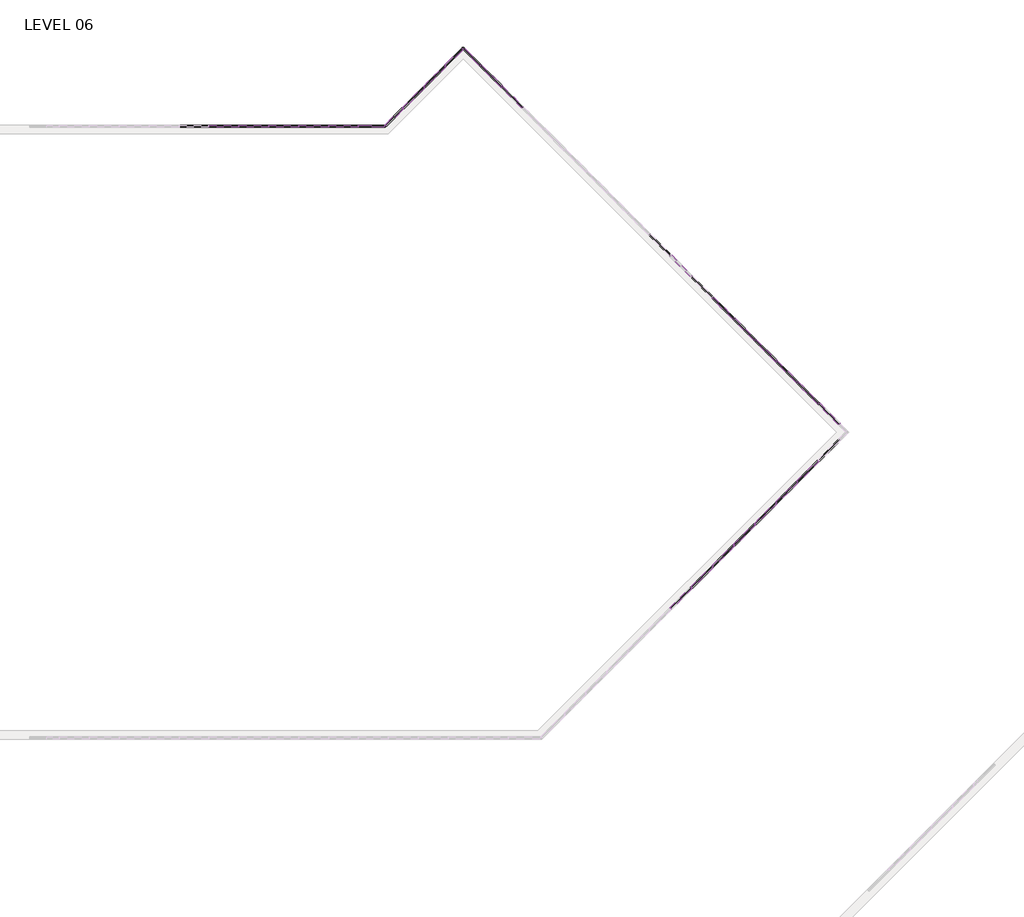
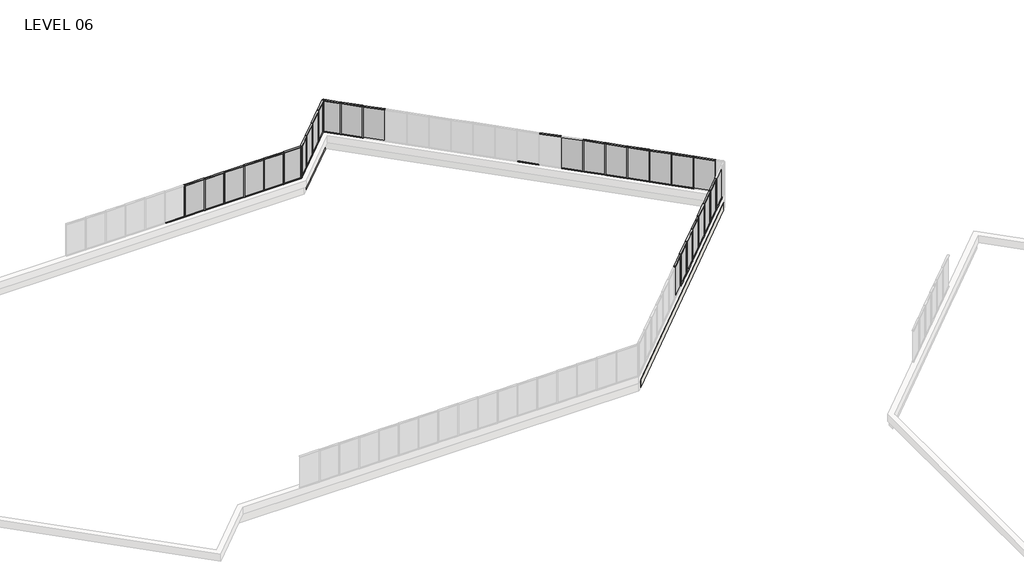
# One storey, part 15 of 17: 82 members, 28 plates, 2 walls.
"""IFC4 building model written with IfcOpenShell, lengths in millimetres."""

from ifc_helpers import new_model, si_unit, origin, place, context, project, spatial, faceted_brep, transform, mapped, element, save
from components import member_5247f267, member_e44af9ab, member_800970d4, member_45eb7f2e, member_ed9c17d6, member_53409b32, member_43bac76b, member_0b71a88d, plate_67294edd, plate_048e4634, plate_aaac5d3d, plate_9c66726c, plate_e0fd5134, plate_62af1d3c, plate_903242d9, plate_0d1907f3, plate_15429445

model = new_model("IFC4")

# Units and contexts
model_context = context("Model", 3, world=origin())
ifc_project = project(units=[si_unit("LENGTHUNIT", "METRE", prefix="MILLI")], contexts=[model_context])

# Site, building, storey
site = spatial("IfcSite", under=ifc_project)
building = spatial("IfcBuilding", under=site)
storey = spatial("IfcBuildingStorey", under=building, Name="LEVEL 06", Elevation=19596.1)

# Members
placement = place(None, origin())
member_shape = member_5247f267(model_context)
element("IfcMember", 1, ObjectType="Rectangular Mullion : 2\" x 4.5\" rectangular", at=placement, inside=storey, context=model_context, shape_type="MappedRepresentation", body=[
    mapped(member_shape, transform((39706.55, 120127.9523049, 19596.1), x_axis=(0.0, 0.0, -1.0), y_axis=(0.0, 1.0, 0.0), z_axis=(1.0, 0.0, 0.0))),
])
element("IfcMember", 2, ObjectType="Rectangular Mullion : 2\" x 4.5\" rectangular", at=placement, inside=storey, context=model_context, shape_type="MappedRepresentation", body=[
    mapped(member_shape, transform((38182.55, 120127.9523049, 19596.1), x_axis=(0.0, 0.0, -1.0), y_axis=(0.0, 1.0, 0.0), z_axis=(1.0, 0.0, 0.0))),
])
element("IfcMember", 3, ObjectType="Rectangular Mullion : 2\" x 4.5\" rectangular", at=placement, inside=storey, context=model_context, shape_type="MappedRepresentation", body=[
    mapped(member_shape, transform((36658.55, 120127.9523049, 19596.1), x_axis=(0.0, 0.0, -1.0), y_axis=(0.0, 1.0, 0.0), z_axis=(1.0, 0.0, 0.0))),
])
element("IfcMember", 4, ObjectType="Rectangular Mullion : 2\" x 4.5\" rectangular", at=placement, inside=storey, context=model_context, shape_type="MappedRepresentation", body=[
    mapped(member_shape, transform((35134.55, 120127.9523049, 19596.1), x_axis=(0.0, 0.0, -1.0), y_axis=(0.0, 1.0, 0.0), z_axis=(1.0, 0.0, 0.0))),
])
element("IfcMember", 5, ObjectType="Rectangular Mullion : 2\" x 4.5\" rectangular", at=placement, inside=storey, context=model_context, shape_type="MappedRepresentation", body=[
    mapped(member_shape, transform((32086.55, 120127.9523049, 19596.1), x_axis=(0.0, 0.0, -1.0), y_axis=(0.0, 1.0, 0.0), z_axis=(1.0, 0.0, 0.0))),
])
element("IfcMember", 6, ObjectType="Rectangular Mullion : 2\" x 4.5\" rectangular", at=placement, inside=storey, context=model_context, shape_type="MappedRepresentation", body=[
    mapped(member_shape, transform((33610.55, 120127.9523049, 19596.1), x_axis=(0.0, 0.0, -1.0), y_axis=(0.0, 1.0, 0.0), z_axis=(1.0, 0.0, 0.0))),
])
element("IfcMember", 7, ObjectType="Rectangular Mullion : 2\" x 4.5\" rectangular", at=placement, inside=storey, context=model_context, shape_type="MappedRepresentation", body=[
    mapped(member_shape, transform((56719.8907816, 96634.0369509, 19596.1), x_axis=(0.0, 0.0, -1.0), y_axis=(0.7071067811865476, -0.7071067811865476, 0.0), z_axis=(-0.7071067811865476, -0.7071067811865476, 0.0))),
])
element("IfcMember", 8, ObjectType="Rectangular Mullion : 2\" x 4.5\" rectangular", at=placement, inside=storey, context=model_context, shape_type="MappedRepresentation", body=[
    mapped(member_shape, transform((57797.5067145, 97711.6528837, 19596.1), x_axis=(0.0, 0.0, -1.0), y_axis=(0.7071067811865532, -0.7071067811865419, 0.0), z_axis=(-0.7071067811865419, -0.7071067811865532, 0.0))),
])
element("IfcMember", 9, ObjectType="Rectangular Mullion : 2\" x 4.5\" rectangular", at=placement, inside=storey, context=model_context, shape_type="MappedRepresentation", body=[
    mapped(member_shape, transform((58875.1226473, 98789.2688165, 19596.1), x_axis=(0.0, 0.0, -1.0), y_axis=(0.7071067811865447, -0.7071067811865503, 0.0), z_axis=(-0.7071067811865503, -0.7071067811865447, 0.0))),
])
element("IfcMember", 10, ObjectType="Rectangular Mullion : 2\" x 4.5\" rectangular", at=placement, inside=storey, context=model_context, shape_type="MappedRepresentation", body=[
    mapped(member_shape, transform((61030.3693146, 100944.5154839, 19596.1), x_axis=(0.0, 0.0, -1.0), y_axis=(0.7071067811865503, -0.7071067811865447, 0.0), z_axis=(-0.7071067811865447, -0.7071067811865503, 0.0))),
])
element("IfcMember", 11, ObjectType="Rectangular Mullion : 2\" x 4.5\" rectangular", at=placement, inside=storey, context=model_context, shape_type="MappedRepresentation", body=[
    mapped(member_shape, transform((59952.7459809, 99866.8921502, 19596.1), x_axis=(0.0, 0.0, -1.0), y_axis=(0.7071067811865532, -0.7071067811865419, 0.0), z_axis=(-0.7071067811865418, -0.7071067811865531, 0.0))),
])
element("IfcMember", 12, ObjectType="Rectangular Mullion : 2\" x 4.5\" rectangular", at=placement, inside=storey, context=model_context, shape_type="MappedRepresentation", body=[
    mapped(member_shape, transform((62108.0000491, 102022.1462184, 19596.1), x_axis=(0.0, 0.0, -1.0), y_axis=(0.7071067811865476, -0.7071067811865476, 0.0), z_axis=(-0.7071067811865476, -0.7071067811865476, 0.0))),
])
element("IfcMember", 13, ObjectType="Rectangular Mullion : 2\" x 4.5\" rectangular", at=placement, inside=storey, context=model_context, shape_type="MappedRepresentation", body=[
    mapped(member_shape, transform((63185.6307836, 103099.7769529, 19596.1), x_axis=(0.0, 0.0, -1.0), y_axis=(0.7071067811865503, -0.7071067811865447, 0.0), z_axis=(-0.7071067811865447, -0.7071067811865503, 0.0))),
])
element("IfcMember", 14, ObjectType="Rectangular Mullion : 2\" x 4.5\" rectangular", at=placement, inside=storey, context=model_context, shape_type="MappedRepresentation", body=[
    mapped(member_shape, transform((62072.0790246, 107097.5294159, 19596.1), x_axis=(0.0, 0.0, -1.0), y_axis=(0.7071067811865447, 0.7071067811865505, 0.0), z_axis=(0.7071067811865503, -0.7071067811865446, 0.0))),
])
element("IfcMember", 15, ObjectType="Rectangular Mullion : 2\" x 4.5\" rectangular", at=placement, inside=storey, context=model_context, shape_type="MappedRepresentation", body=[
    mapped(member_shape, transform((60994.4482901, 108175.1601505, 19596.1), x_axis=(0.0, 0.0, -1.0), y_axis=(0.7071067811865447, 0.7071067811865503, 0.0), z_axis=(0.7071067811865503, -0.7071067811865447, 0.0))),
])
element("IfcMember", 16, ObjectType="Rectangular Mullion : 2\" x 4.5\" rectangular", at=placement, inside=storey, context=model_context, shape_type="MappedRepresentation", body=[
    mapped(member_shape, transform((58839.2225556, 110330.385885, 19596.1), x_axis=(0.0, 0.0, -1.0), y_axis=(0.7071067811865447, 0.7071067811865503, 0.0), z_axis=(0.7071067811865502, -0.7071067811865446, 0.0))),
])
element("IfcMember", 17, ObjectType="Rectangular Mullion : 2\" x 4.5\" rectangular", at=placement, inside=storey, context=model_context, shape_type="MappedRepresentation", body=[
    mapped(member_shape, transform((57761.6275556, 111407.980885, 19596.1), x_axis=(0.0, 0.0, -1.0), y_axis=(0.7071067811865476, 0.7071067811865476, 0.0), z_axis=(0.7071067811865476, -0.7071067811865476, 0.0))),
])
element("IfcMember", 18, ObjectType="Rectangular Mullion : 2\" x 4.5\" rectangular", at=placement, inside=storey, context=model_context, shape_type="MappedRepresentation", body=[
    mapped(member_shape, transform((63149.7097592, 106019.8986814, 19596.1), x_axis=(0.0, 0.0, -1.0), y_axis=(0.7071067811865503, 0.7071067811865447, 0.0), z_axis=(0.7071067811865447, -0.7071067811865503, 0.0))),
])
element("IfcMember", 19, ObjectType="Rectangular Mullion : 2\" x 4.5\" rectangular", at=placement, inside=storey, context=model_context, shape_type="MappedRepresentation", body=[
    mapped(member_shape, transform((59916.8354228, 109252.7730177, 19596.1), x_axis=(0.0, 0.0, -1.0), y_axis=(0.7071067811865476, 0.7071067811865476, 0.0), z_axis=(0.7071067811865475, -0.7071067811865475, 0.0))),
])
element("IfcMember", 20, ObjectType="Rectangular Mullion : 2\" x 4.5\" rectangular", at=placement, inside=storey, context=model_context, shape_type="MappedRepresentation", body=[
    mapped(member_shape, transform((47009.3767128, 122160.2317277, 19596.1), x_axis=(0.0, 0.0, -1.0), y_axis=(0.7071067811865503, 0.7071067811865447, 0.0), z_axis=(0.7071067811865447, -0.7071067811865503, 0.0))),
])
element("IfcMember", 21, ObjectType="Rectangular Mullion : 2\" x 4.5\" rectangular", at=placement, inside=storey, context=model_context, shape_type="MappedRepresentation", body=[
    mapped(member_shape, transform((43059.572889, 122097.2813296, 19596.1), x_axis=(0.0, 0.0, -1.0), y_axis=(-0.7071067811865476, 0.7071067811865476, 0.0), z_axis=(0.7071067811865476, 0.7071067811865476, 0.0))),
])
element("IfcMember", 22, ObjectType="Rectangular Mullion : 2\" x 4.5\" rectangular", at=placement, inside=storey, context=model_context, shape_type="MappedRepresentation", body=[
    mapped(member_shape, transform((44137.2036235, 123174.9120641, 19596.1), x_axis=(0.0, 0.0, -1.0), y_axis=(-0.7071067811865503, 0.7071067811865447, 0.0), z_axis=(0.7071067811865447, 0.7071067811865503, 0.0))),
])
element("IfcMember", 23, ObjectType="Rectangular Mullion : 2\" x 4.5\" rectangular", at=placement, inside=storey, context=model_context, shape_type="MappedRepresentation", body=[
    mapped(member_shape, transform((38233.35, 120127.9523049, 22186.9), x_axis=(0.0, 0.0, 1.0), y_axis=(0.0, 1.0, 0.0), z_axis=(-1.0, 0.0, 0.0))),
])
element("IfcMember", 24, ObjectType="Rectangular Mullion : 2\" x 4.5\" rectangular", at=placement, inside=storey, context=model_context, shape_type="MappedRepresentation", body=[
    mapped(member_shape, transform((36709.35, 120127.9523049, 22186.9), x_axis=(0.0, 0.0, 1.0), y_axis=(0.0, 1.0, 0.0), z_axis=(-1.0, 0.0, 0.0))),
])
element("IfcMember", 25, ObjectType="Rectangular Mullion : 2\" x 4.5\" rectangular", at=placement, inside=storey, context=model_context, shape_type="MappedRepresentation", body=[
    mapped(member_shape, transform((35185.35, 120127.9523049, 22186.9), x_axis=(0.0, 0.0, 1.0), y_axis=(0.0, 1.0, 0.0), z_axis=(-1.0, 0.0, 0.0))),
])
element("IfcMember", 26, ObjectType="Rectangular Mullion : 2\" x 4.5\" rectangular", at=placement, inside=storey, context=model_context, shape_type="MappedRepresentation", body=[
    mapped(member_shape, transform((32137.35, 120127.9523049, 22186.9), x_axis=(0.0, 0.0, 1.0), y_axis=(0.0, 1.0, 0.0), z_axis=(-1.0, 0.0, 0.0))),
])
element("IfcMember", 27, ObjectType="Rectangular Mullion : 2\" x 4.5\" rectangular", at=placement, inside=storey, context=model_context, shape_type="MappedRepresentation", body=[
    mapped(member_shape, transform((33661.35, 120127.9523049, 22186.9), x_axis=(0.0, 0.0, 1.0), y_axis=(0.0, 1.0, 0.0), z_axis=(-1.0, 0.0, 0.0))),
])
element("IfcMember", 28, ObjectType="Rectangular Mullion : 2\" x 4.5\" rectangular", at=placement, inside=storey, context=model_context, shape_type="MappedRepresentation", body=[
    mapped(member_shape, transform((56683.9697572, 96598.1159265, 22186.9), x_axis=(0.0, 0.0, 1.0), y_axis=(0.7071067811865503, -0.7071067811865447, 0.0), z_axis=(0.7071067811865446, 0.7071067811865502, 0.0))),
])
element("IfcMember", 29, ObjectType="Rectangular Mullion : 2\" x 4.5\" rectangular", at=placement, inside=storey, context=model_context, shape_type="MappedRepresentation", body=[
    mapped(member_shape, transform((57761.58569, 97675.7318593, 22186.9), x_axis=(0.0, 0.0, 1.0), y_axis=(0.7071067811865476, -0.7071067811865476, 0.0), z_axis=(0.7071067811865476, 0.7071067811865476, 0.0))),
])
element("IfcMember", 30, ObjectType="Rectangular Mullion : 2\" x 4.5\" rectangular", at=placement, inside=storey, context=model_context, shape_type="MappedRepresentation", body=[
    mapped(member_shape, transform((58839.2016228, 98753.3477921, 22186.9), x_axis=(0.0, 0.0, 1.0), y_axis=(0.7071067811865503, -0.7071067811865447, 0.0), z_axis=(0.7071067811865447, 0.7071067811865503, 0.0))),
])
element("IfcMember", 31, ObjectType="Rectangular Mullion : 2\" x 4.5\" rectangular", at=placement, inside=storey, context=model_context, shape_type="MappedRepresentation", body=[
    mapped(member_shape, transform((60994.4482901, 100908.5944594, 22186.9), x_axis=(0.0, 0.0, 1.0), y_axis=(0.7071067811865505, -0.7071067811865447, 0.0), z_axis=(0.7071067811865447, 0.7071067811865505, 0.0))),
])
element("IfcMember", 32, ObjectType="Rectangular Mullion : 2\" x 4.5\" rectangular", at=placement, inside=storey, context=model_context, shape_type="MappedRepresentation", body=[
    mapped(member_shape, transform((59916.8249564, 99830.9711257, 22186.9), x_axis=(0.0, 0.0, 1.0), y_axis=(0.7071067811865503, -0.7071067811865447, 0.0), z_axis=(0.7071067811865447, 0.7071067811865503, 0.0))),
])
element("IfcMember", 33, ObjectType="Rectangular Mullion : 2\" x 4.5\" rectangular", at=placement, inside=storey, context=model_context, shape_type="MappedRepresentation", body=[
    mapped(member_shape, transform((62072.0790246, 101986.2251939, 22186.9), x_axis=(0.0, 0.0, 1.0), y_axis=(0.7071067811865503, -0.7071067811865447, 0.0), z_axis=(0.7071067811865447, 0.7071067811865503, 0.0))),
])
element("IfcMember", 34, ObjectType="Rectangular Mullion : 2\" x 4.5\" rectangular", at=placement, inside=storey, context=model_context, shape_type="MappedRepresentation", body=[
    mapped(member_shape, transform((63149.7097592, 103063.8559285, 22186.9), x_axis=(0.0, 0.0, 1.0), y_axis=(0.7071067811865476, -0.7071067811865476, 0.0), z_axis=(0.7071067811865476, 0.7071067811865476, 0.0))),
])
element("IfcMember", 35, ObjectType="Rectangular Mullion : 2\" x 4.5\" rectangular", at=placement, inside=storey, context=model_context, shape_type="MappedRepresentation", body=[
    mapped(member_shape, transform((62108.0000491, 107061.6083914, 22186.9), x_axis=(0.0, 0.0, 1.0), y_axis=(0.7071067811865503, 0.7071067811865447, 0.0), z_axis=(-0.7071067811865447, 0.7071067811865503, 0.0))),
])
element("IfcMember", 36, ObjectType="Rectangular Mullion : 2\" x 4.5\" rectangular", at=placement, inside=storey, context=model_context, shape_type="MappedRepresentation", body=[
    mapped(member_shape, transform((61030.3693146, 108139.239126, 22186.9), x_axis=(0.0, 0.0, 1.0), y_axis=(0.7071067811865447, 0.7071067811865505, 0.0), z_axis=(-0.7071067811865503, 0.7071067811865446, 0.0))),
])
element("IfcMember", 37, ObjectType="Rectangular Mullion : 2\" x 4.5\" rectangular", at=placement, inside=storey, context=model_context, shape_type="MappedRepresentation", body=[
    mapped(member_shape, transform((58875.1435801, 110294.4648605, 22186.9), x_axis=(0.0, 0.0, 1.0), y_axis=(0.7071067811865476, 0.7071067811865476, 0.0), z_axis=(-0.7071067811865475, 0.7071067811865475, 0.0))),
])
element("IfcMember", 38, ObjectType="Rectangular Mullion : 2\" x 4.5\" rectangular", at=placement, inside=storey, context=model_context, shape_type="MappedRepresentation", body=[
    mapped(member_shape, transform((57797.5485801, 111372.0598605, 22186.9), x_axis=(0.0, 0.0, 1.0), y_axis=(0.7071067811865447, 0.7071067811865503, 0.0), z_axis=(-0.7071067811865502, 0.7071067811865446, 0.0))),
])
element("IfcMember", 39, ObjectType="Rectangular Mullion : 2\" x 4.5\" rectangular", at=placement, inside=storey, context=model_context, shape_type="MappedRepresentation", body=[
    mapped(member_shape, transform((55642.3585801, 113527.2498605, 22186.9), x_axis=(0.0, 0.0, 1.0), y_axis=(0.7071067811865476, 0.7071067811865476, 0.0), z_axis=(-0.7071067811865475, 0.7071067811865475, 0.0))),
])
element("IfcMember", 40, ObjectType="Rectangular Mullion : 2\" x 4.5\" rectangular", at=placement, inside=storey, context=model_context, shape_type="MappedRepresentation", body=[
    mapped(member_shape, transform((63185.6307836, 105983.9776569, 22186.9), x_axis=(0.0, 0.0, 1.0), y_axis=(0.7071067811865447, 0.7071067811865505, 0.0), z_axis=(-0.7071067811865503, 0.7071067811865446, 0.0))),
])
element("IfcMember", 41, ObjectType="Rectangular Mullion : 2\" x 4.5\" rectangular", at=placement, inside=storey, context=model_context, shape_type="MappedRepresentation", body=[
    mapped(member_shape, transform((59952.7564473, 109216.8519932, 22186.9), x_axis=(0.0, 0.0, 1.0), y_axis=(0.7071067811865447, 0.7071067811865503, 0.0), z_axis=(-0.7071067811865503, 0.7071067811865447, 0.0))),
])
element("IfcMember", 42, ObjectType="Rectangular Mullion : 2\" x 4.5\" rectangular", at=placement, inside=storey, context=model_context, shape_type="MappedRepresentation", body=[
    mapped(member_shape, transform((47045.2977373, 122124.3107033, 22186.9), x_axis=(0.0, 0.0, 1.0), y_axis=(0.7071067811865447, 0.7071067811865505, 0.0), z_axis=(-0.7071067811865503, 0.7071067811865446, 0.0))),
])
element("IfcMember", 43, ObjectType="Rectangular Mullion : 2\" x 4.5\" rectangular", at=placement, inside=storey, context=model_context, shape_type="MappedRepresentation", body=[
    mapped(member_shape, transform((45967.6670028, 123201.9414378, 22186.9), x_axis=(0.0, 0.0, 1.0), y_axis=(0.7071067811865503, 0.7071067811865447, 0.0), z_axis=(-0.7071067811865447, 0.7071067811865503, 0.0))),
])
element("IfcMember", 44, ObjectType="Rectangular Mullion : 2\" x 4.5\" rectangular", at=placement, inside=storey, context=model_context, shape_type="MappedRepresentation", body=[
    mapped(member_shape, transform((43095.4939135, 122133.202354, 22186.9), x_axis=(0.0, 0.0, 1.0), y_axis=(-0.7071067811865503, 0.7071067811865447, 0.0), z_axis=(-0.7071067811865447, -0.7071067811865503, 0.0))),
])
element("IfcMember", 45, ObjectType="Rectangular Mullion : 2\" x 4.5\" rectangular", at=placement, inside=storey, context=model_context, shape_type="MappedRepresentation", body=[
    mapped(member_shape, transform((42017.863179, 121055.5716195, 22186.9), x_axis=(0.0, 0.0, 1.0), y_axis=(-0.7071067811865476, 0.7071067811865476, 0.0), z_axis=(-0.7071067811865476, -0.7071067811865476, 0.0))),
])
member_2_shape = member_e44af9ab(model_context)
element("IfcMember", 46, ObjectType="Rectangular Mullion : 2\" x 4.5\" rectangular", at=placement, inside=storey, context=model_context, shape_type="MappedRepresentation", body=[
    mapped(member_2_shape, transform((39731.95, 120127.9523049, 19596.1), x_axis=(-1.0, 0.0, 0.0), y_axis=(0.0, 1.0, 0.0), z_axis=(0.0, 0.0, -1.0))),
])
element("IfcMember", 47, ObjectType="Rectangular Mullion : 2\" x 4.5\" rectangular", at=placement, inside=storey, context=model_context, shape_type="MappedRepresentation", body=[
    mapped(member_2_shape, transform((38207.95, 120127.9523049, 19596.1), x_axis=(-1.0, 0.0, 0.0), y_axis=(0.0, 1.0, 0.0), z_axis=(0.0, 0.0, -1.0))),
])
element("IfcMember", 48, ObjectType="Rectangular Mullion : 2\" x 4.5\" rectangular", at=placement, inside=storey, context=model_context, shape_type="MappedRepresentation", body=[
    mapped(member_2_shape, transform((36683.95, 120127.9523049, 19596.1), x_axis=(-1.0, 0.0, 0.0), y_axis=(0.0, 1.0, 0.0), z_axis=(0.0, 0.0, -1.0))),
])
element("IfcMember", 49, ObjectType="Rectangular Mullion : 2\" x 4.5\" rectangular", at=placement, inside=storey, context=model_context, shape_type="MappedRepresentation", body=[
    mapped(member_2_shape, transform((35159.95, 120127.9523049, 19596.1), x_axis=(-1.0, 0.0, 0.0), y_axis=(0.0, 1.0, 0.0), z_axis=(0.0, 0.0, -1.0))),
])
element("IfcMember", 50, ObjectType="Rectangular Mullion : 2\" x 4.5\" rectangular", at=placement, inside=storey, context=model_context, shape_type="MappedRepresentation", body=[
    mapped(member_2_shape, transform((32111.95, 120127.9523049, 19596.1), x_axis=(-1.0, 0.0, 0.0), y_axis=(0.0, 1.0, 0.0), z_axis=(0.0, 0.0, -1.0))),
])
element("IfcMember", 51, ObjectType="Rectangular Mullion : 2\" x 4.5\" rectangular", at=placement, inside=storey, context=model_context, shape_type="MappedRepresentation", body=[
    mapped(member_2_shape, transform((33635.95, 120127.9523049, 19596.1), x_axis=(-1.0, 0.0, 0.0), y_axis=(0.0, 1.0, 0.0), z_axis=(0.0, 0.0, -1.0))),
])
element("IfcMember", 52, ObjectType="Rectangular Mullion : 2\" x 4.5\" rectangular", at=placement, inside=storey, context=model_context, shape_type="MappedRepresentation", body=[
    mapped(member_2_shape, transform((56701.9302694, 96616.0764387, 19596.1), x_axis=(0.7071067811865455, 0.7071067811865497, 0.0), y_axis=(0.7071067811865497, -0.7071067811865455, 0.0), z_axis=(0.0, 0.0, -1.0))),
])
element("IfcMember", 53, ObjectType="Rectangular Mullion : 2\" x 4.5\" rectangular", at=placement, inside=storey, context=model_context, shape_type="MappedRepresentation", body=[
    mapped(member_2_shape, transform((57779.5462022, 97693.6923715, 19596.1), x_axis=(0.7071067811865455, 0.7071067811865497, 0.0), y_axis=(0.7071067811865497, -0.7071067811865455, 0.0), z_axis=(0.0, 0.0, -1.0))),
])
element("IfcMember", 54, ObjectType="Rectangular Mullion : 2\" x 4.5\" rectangular", at=placement, inside=storey, context=model_context, shape_type="MappedRepresentation", body=[
    mapped(member_2_shape, transform((58857.162135, 98771.3083043, 19596.1), x_axis=(0.7071067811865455, 0.7071067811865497, 0.0), y_axis=(0.7071067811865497, -0.7071067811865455, 0.0), z_axis=(0.0, 0.0, -1.0))),
])
element("IfcMember", 55, ObjectType="Rectangular Mullion : 2\" x 4.5\" rectangular", at=placement, inside=storey, context=model_context, shape_type="MappedRepresentation", body=[
    mapped(member_2_shape, transform((61012.4088023, 100926.5549716, 19596.1), x_axis=(0.7071067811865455, 0.7071067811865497, 0.0), y_axis=(0.7071067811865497, -0.7071067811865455, 0.0), z_axis=(0.0, 0.0, -1.0))),
])
element("IfcMember", 56, ObjectType="Rectangular Mullion : 2\" x 4.5\" rectangular", at=placement, inside=storey, context=model_context, shape_type="MappedRepresentation", body=[
    mapped(member_2_shape, transform((59934.7854687, 99848.931638, 19596.1), x_axis=(0.7071067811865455, 0.7071067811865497, 0.0), y_axis=(0.7071067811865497, -0.7071067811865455, 0.0), z_axis=(0.0, 0.0, -1.0))),
])
element("IfcMember", 57, ObjectType="Rectangular Mullion : 2\" x 4.5\" rectangular", at=placement, inside=storey, context=model_context, shape_type="MappedRepresentation", body=[
    mapped(member_2_shape, transform((62090.0395369, 102004.1857062, 19596.1), x_axis=(0.7071067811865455, 0.7071067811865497, 0.0), y_axis=(0.7071067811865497, -0.7071067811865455, 0.0), z_axis=(0.0, 0.0, -1.0))),
])
element("IfcMember", 58, ObjectType="Rectangular Mullion : 2\" x 4.5\" rectangular", at=placement, inside=storey, context=model_context, shape_type="MappedRepresentation", body=[
    mapped(member_2_shape, transform((63167.6702714, 103081.8164407, 19596.1), x_axis=(0.7071067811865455, 0.7071067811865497, 0.0), y_axis=(0.7071067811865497, -0.7071067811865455, 0.0), z_axis=(0.0, 0.0, -1.0))),
])
element("IfcMember", 59, ObjectType="Rectangular Mullion : 2\" x 4.5\" rectangular", at=placement, inside=storey, context=model_context, shape_type="MappedRepresentation", body=[
    mapped(member_2_shape, transform((62090.0395369, 107079.5689037, 19596.1), x_axis=(-0.7071067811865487, 0.7071067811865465, 0.0), y_axis=(0.7071067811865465, 0.7071067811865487, 0.0), z_axis=(0.0, 0.0, -1.0))),
])
element("IfcMember", 60, ObjectType="Rectangular Mullion : 2\" x 4.5\" rectangular", at=placement, inside=storey, context=model_context, shape_type="MappedRepresentation", body=[
    mapped(member_2_shape, transform((61012.4088023, 108157.1996382, 19596.1), x_axis=(-0.7071067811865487, 0.7071067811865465, 0.0), y_axis=(0.7071067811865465, 0.7071067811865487, 0.0), z_axis=(0.0, 0.0, -1.0))),
])
element("IfcMember", 61, ObjectType="Rectangular Mullion : 2\" x 4.5\" rectangular", at=placement, inside=storey, context=model_context, shape_type="MappedRepresentation", body=[
    mapped(member_2_shape, transform((58857.1830678, 110312.4253727, 19596.1), x_axis=(-0.7071067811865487, 0.7071067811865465, 0.0), y_axis=(0.7071067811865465, 0.7071067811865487, 0.0), z_axis=(0.0, 0.0, -1.0))),
])
element("IfcMember", 62, ObjectType="Rectangular Mullion : 2\" x 4.5\" rectangular", at=placement, inside=storey, context=model_context, shape_type="MappedRepresentation", body=[
    mapped(member_2_shape, transform((57779.5880678, 111390.0203727, 19596.1), x_axis=(-0.7071067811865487, 0.7071067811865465, 0.0), y_axis=(0.7071067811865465, 0.7071067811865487, 0.0), z_axis=(0.0, 0.0, -1.0))),
])
element("IfcMember", 63, ObjectType="Rectangular Mullion : 2\" x 4.5\" rectangular", at=placement, inside=storey, context=model_context, shape_type="MappedRepresentation", body=[
    mapped(member_2_shape, transform((63167.6702714, 106001.9381692, 19596.1), x_axis=(-0.7071067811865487, 0.7071067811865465, 0.0), y_axis=(0.7071067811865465, 0.7071067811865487, 0.0), z_axis=(0.0, 0.0, -1.0))),
])
element("IfcMember", 64, ObjectType="Rectangular Mullion : 2\" x 4.5\" rectangular", at=placement, inside=storey, context=model_context, shape_type="MappedRepresentation", body=[
    mapped(member_2_shape, transform((59934.7959351, 109234.8125055, 19596.1), x_axis=(-0.7071067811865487, 0.7071067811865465, 0.0), y_axis=(0.7071067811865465, 0.7071067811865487, 0.0), z_axis=(0.0, 0.0, -1.0))),
])
element("IfcMember", 65, ObjectType="Rectangular Mullion : 2\" x 4.5\" rectangular", at=placement, inside=storey, context=model_context, shape_type="MappedRepresentation", body=[
    mapped(member_2_shape, transform((47027.3372251, 122142.2712155, 19596.1), x_axis=(-0.7071067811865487, 0.7071067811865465, 0.0), y_axis=(0.7071067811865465, 0.7071067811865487, 0.0), z_axis=(0.0, 0.0, -1.0))),
])
element("IfcMember", 66, ObjectType="Rectangular Mullion : 2\" x 4.5\" rectangular", at=placement, inside=storey, context=model_context, shape_type="MappedRepresentation", body=[
    mapped(member_2_shape, transform((45949.7064905, 123219.90195, 19596.1), x_axis=(-0.7071067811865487, 0.7071067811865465, 0.0), y_axis=(0.7071067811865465, 0.7071067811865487, 0.0), z_axis=(0.0, 0.0, -1.0))),
])
element("IfcMember", 67, ObjectType="Rectangular Mullion : 2\" x 4.5\" rectangular", at=placement, inside=storey, context=model_context, shape_type="MappedRepresentation", body=[
    mapped(member_2_shape, transform((43077.5334012, 122115.2418418, 19596.1), x_axis=(-0.7071067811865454, -0.7071067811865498, 0.0), y_axis=(-0.7071067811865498, 0.7071067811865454, 0.0), z_axis=(0.0, 0.0, -1.0))),
])
element("IfcMember", 68, ObjectType="Rectangular Mullion : 2\" x 4.5\" rectangular", at=placement, inside=storey, context=model_context, shape_type="MappedRepresentation", body=[
    mapped(member_2_shape, transform((41999.9026667, 121037.6111073, 19596.1), x_axis=(-0.7071067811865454, -0.7071067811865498, 0.0), y_axis=(-0.7071067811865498, 0.7071067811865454, 0.0), z_axis=(0.0, 0.0, -1.0))),
])
element("IfcMember", 69, ObjectType="Rectangular Mullion : 2\" x 4.5\" rectangular", at=placement, inside=storey, context=model_context, shape_type="MappedRepresentation", body=[
    mapped(member_2_shape, transform((44155.1641358, 123192.8725763, 19596.1), x_axis=(-0.7071067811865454, -0.7071067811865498, 0.0), y_axis=(-0.7071067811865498, 0.7071067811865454, 0.0), z_axis=(0.0, 0.0, -1.0))),
])
member_3_shape = member_800970d4(model_context)
element("IfcMember", 70, ObjectType="Rectangular Mullion : 2\" x 4.5\" rectangular", at=placement, inside=storey, context=model_context, shape_type="MappedRepresentation", body=[
    mapped(member_3_shape, transform((45065.95, 124103.6584406, 19596.1), x_axis=(-0.7071067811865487, 0.7071067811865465, 0.0), y_axis=(0.7071067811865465, 0.7071067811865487, 0.0), z_axis=(0.0, 0.0, -1.0))),
])
element("IfcMember", 71, ObjectType="Rectangular Mullion : 2\" x 4.5\" rectangular", at=placement, inside=storey, context=model_context, shape_type="MappedRepresentation", body=[
    mapped(member_3_shape, transform((41090.2438644, 120127.9523049, 19596.1), x_axis=(-0.7071067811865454, -0.7071067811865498, 0.0), y_axis=(-0.7071067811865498, 0.7071067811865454, 0.0), z_axis=(0.0, 0.0, -1.0))),
])
element("IfcMember", 72, ObjectType="Rectangular Mullion : 2\" x 4.5\" rectangular", at=placement, inside=storey, context=model_context, shape_type="MappedRepresentation", body=[
    mapped(member_3_shape, transform((41090.2438644, 120127.9523049, 22186.9), x_axis=(1.0, 0.0, 0.0), y_axis=(0.0, 1.0, 0.0), z_axis=(0.0, 0.0, 1.0))),
])
element("IfcMember", 73, ObjectType="Rectangular Mullion : 2\" x 4.5\" rectangular", at=placement, inside=storey, context=model_context, shape_type="MappedRepresentation", body=[
    mapped(member_3_shape, transform((45065.95, 124103.6584406, 22186.9), x_axis=(0.7071067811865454, 0.7071067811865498, 0.0), y_axis=(-0.7071067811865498, 0.7071067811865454, 0.0), z_axis=(0.0, 0.0, 1.0))),
])
member_4_shape = member_45eb7f2e(model_context)
element("IfcMember", 74, ObjectType="Rectangular Mullion : 2\" x 4.5\" rectangular", at=placement, inside=storey, context=model_context, shape_type="MappedRepresentation", body=[
    mapped(member_4_shape, transform((39757.35, 120127.9523049, 22186.9), x_axis=(0.0, 0.0, 1.0), y_axis=(0.0, 1.0, 0.0), z_axis=(-1.0, 0.0, 0.0))),
])
element("IfcMember", 75, ObjectType="Rectangular Mullion : 2\" x 4.5\" rectangular", at=placement, inside=storey, context=model_context, shape_type="MappedRepresentation", body=[
    mapped(member_4_shape, transform((41039.4438644, 120127.9523049, 19596.1), x_axis=(0.0, 0.0, -1.0), y_axis=(0.0, 1.0, 0.0), z_axis=(1.0, 0.0, 0.0))),
])
member_5_shape = member_ed9c17d6(model_context)
element("IfcMember", 76, ObjectType="Rectangular Mullion : 2\" x 4.5\" rectangular", at=placement, inside=storey, context=model_context, shape_type="MappedRepresentation", body=[
    mapped(member_5_shape, transform((55606.4375556, 113563.170885, 19596.1), x_axis=(0.0, 0.0, -1.0), y_axis=(0.7071067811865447, 0.7071067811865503, 0.0), z_axis=(0.7071067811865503, -0.7071067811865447, 0.0))),
])
member_6_shape = member_53409b32(model_context)
element("IfcMember", 77, ObjectType="Rectangular Mullion : 2\" x 4.5\" rectangular", at=placement, inside=storey, context=model_context, shape_type="MappedRepresentation", body=[
    mapped(member_6_shape, transform((45101.8710245, 124067.7374161, 22186.9), x_axis=(0.0, 0.0, 1.0), y_axis=(0.7071067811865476, 0.7071067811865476, 0.0), z_axis=(-0.7071067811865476, 0.7071067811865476, 0.0))),
])
element("IfcMember", 78, ObjectType="Rectangular Mullion : 2\" x 4.5\" rectangular", at=placement, inside=storey, context=model_context, shape_type="MappedRepresentation", body=[
    mapped(member_6_shape, transform((45931.7459783, 123237.8624623, 19596.1), x_axis=(0.0, 0.0, -1.0), y_axis=(0.7071067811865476, 0.7071067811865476, 0.0), z_axis=(0.7071067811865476, -0.7071067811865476, 0.0))),
])
member_7_shape = member_43bac76b(model_context)
element("IfcMember", 79, ObjectType="Rectangular Mullion : 2\" x 4.5\" rectangular", at=placement, inside=storey, context=model_context, shape_type="MappedRepresentation", body=[
    mapped(member_7_shape, transform((41126.1648889, 120163.8733294, 22186.9), x_axis=(0.0, 0.0, 1.0), y_axis=(-0.7071067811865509, 0.7071067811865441, 0.0), z_axis=(-0.7071067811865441, -0.7071067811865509, 0.0))),
])
element("IfcMember", 80, ObjectType="Rectangular Mullion : 2\" x 4.5\" rectangular", at=placement, inside=storey, context=model_context, shape_type="MappedRepresentation", body=[
    mapped(member_7_shape, transform((41981.9421545, 121019.650595, 19596.1), x_axis=(0.0, 0.0, -1.0), y_axis=(-0.7071067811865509, 0.7071067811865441, 0.0), z_axis=(0.7071067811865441, 0.7071067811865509, 0.0))),
])
member_8_shape = member_0b71a88d(model_context)
element("IfcMember", 81, ObjectType="Rectangular Mullion : 2\" x 4.5\" rectangular", at=placement, inside=storey, context=model_context, shape_type="MappedRepresentation", body=[
    mapped(member_8_shape, transform((45030.0289755, 124067.7374161, 19596.1), x_axis=(0.0, 0.0, -1.0), y_axis=(-0.7071067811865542, 0.7071067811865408, 0.0), z_axis=(0.7071067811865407, 0.7071067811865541, 0.0))),
])
element("IfcMember", 82, ObjectType="Rectangular Mullion : 2\" x 4.5\" rectangular", at=placement, inside=storey, context=model_context, shape_type="MappedRepresentation", body=[
    mapped(member_8_shape, transform((44173.124648, 123210.8330886, 22186.9), x_axis=(0.0, 0.0, 1.0), y_axis=(-0.7071067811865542, 0.7071067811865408, 0.0), z_axis=(-0.7071067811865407, -0.7071067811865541, 0.0))),
])

# Plates
plate_shape = plate_67294edd(model_context)
element("IfcPlate", 83, ObjectType="System Panel : 1/4\" Glass", at=placement, inside=storey, context=model_context, shape_type="MappedRepresentation", body=[
    mapped(plate_shape, transform((38969.95, 120127.9523049, 19646.9), x_axis=(-1.0, 0.0, 0.0), y_axis=(0.0, -1.0, 0.0), z_axis=(0.0, 0.0, 1.0))),
])
element("IfcPlate", 84, ObjectType="System Panel : 1/4\" Glass", at=placement, inside=storey, context=model_context, shape_type="MappedRepresentation", body=[
    mapped(plate_shape, transform((37445.95, 120127.9523049, 19646.9), x_axis=(-1.0, 0.0, 0.0), y_axis=(0.0, -1.0, 0.0), z_axis=(0.0, 0.0, 1.0))),
])
element("IfcPlate", 85, ObjectType="System Panel : 1/4\" Glass", at=placement, inside=storey, context=model_context, shape_type="MappedRepresentation", body=[
    mapped(plate_shape, transform((35921.95, 120127.9523049, 19646.9), x_axis=(-1.0, 0.0, 0.0), y_axis=(0.0, -1.0, 0.0), z_axis=(0.0, 0.0, 1.0))),
])
element("IfcPlate", 86, ObjectType="System Panel : 1/4\" Glass", at=placement, inside=storey, context=model_context, shape_type="MappedRepresentation", body=[
    mapped(plate_shape, transform((34397.95, 120127.9523049, 19646.9), x_axis=(-1.0, 0.0, 0.0), y_axis=(0.0, -1.0, 0.0), z_axis=(0.0, 0.0, 1.0))),
])
element("IfcPlate", 87, ObjectType="System Panel : 1/4\" Glass", at=placement, inside=storey, context=model_context, shape_type="MappedRepresentation", body=[
    mapped(plate_shape, transform((32873.95, 120127.9523049, 19646.9), x_axis=(-1.0, 0.0, 0.0), y_axis=(0.0, -1.0, 0.0), z_axis=(0.0, 0.0, 1.0))),
])
element("IfcPlate", 88, ObjectType="System Panel : 1/4\" Glass", at=placement, inside=storey, context=model_context, shape_type="MappedRepresentation", body=[
    mapped(plate_shape, transform((61551.2241696, 101465.3703389, 19646.9), x_axis=(0.7071067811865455, 0.7071067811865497, 0.0), y_axis=(-0.7071067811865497, 0.7071067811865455, 0.0), z_axis=(0.0, 0.0, 1.0))),
])
element("IfcPlate", 89, ObjectType="System Panel : 1/4\" Glass", at=placement, inside=storey, context=model_context, shape_type="MappedRepresentation", body=[
    mapped(plate_shape, transform((62628.8549041, 102543.0010734, 19646.9), x_axis=(0.7071067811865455, 0.7071067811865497, 0.0), y_axis=(-0.7071067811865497, 0.7071067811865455, 0.0), z_axis=(0.0, 0.0, 1.0))),
])
element("IfcPlate", 90, ObjectType="System Panel : 1/4\" Glass", at=placement, inside=storey, context=model_context, shape_type="MappedRepresentation", body=[
    mapped(plate_shape, transform((63706.4856387, 103620.631808, 19646.9), x_axis=(0.7071067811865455, 0.7071067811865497, 0.0), y_axis=(-0.7071067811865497, 0.7071067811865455, 0.0), z_axis=(0.0, 0.0, 1.0))),
])
element("IfcPlate", 91, ObjectType="System Panel : 1/4\" Glass", at=placement, inside=storey, context=model_context, shape_type="MappedRepresentation", body=[
    mapped(plate_shape, transform((61551.2241696, 107618.3842709, 19646.9), x_axis=(-0.7071067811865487, 0.7071067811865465, 0.0), y_axis=(-0.7071067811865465, -0.7071067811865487, 0.0), z_axis=(0.0, 0.0, 1.0))),
])
element("IfcPlate", 92, ObjectType="System Panel : 1/4\" Glass", at=placement, inside=storey, context=model_context, shape_type="MappedRepresentation", body=[
    mapped(plate_shape, transform((62628.8549041, 106540.7535364, 19646.9), x_axis=(-0.7071067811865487, 0.7071067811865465, 0.0), y_axis=(-0.7071067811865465, -0.7071067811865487, 0.0), z_axis=(0.0, 0.0, 1.0))),
])
element("IfcPlate", 93, ObjectType="System Panel : 1/4\" Glass", at=placement, inside=storey, context=model_context, shape_type="MappedRepresentation", body=[
    mapped(plate_shape, transform((63706.4856387, 105463.1228019, 19646.9), x_axis=(-0.7071067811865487, 0.7071067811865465, 0.0), y_axis=(-0.7071067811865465, -0.7071067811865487, 0.0), z_axis=(0.0, 0.0, 1.0))),
])
element("IfcPlate", 94, ObjectType="System Panel : 1/4\" Glass", at=placement, inside=storey, context=model_context, shape_type="MappedRepresentation", body=[
    mapped(plate_shape, transform((47566.1525923, 121603.4558482, 19646.9), x_axis=(-0.7071067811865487, 0.7071067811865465, 0.0), y_axis=(-0.7071067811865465, -0.7071067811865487, 0.0), z_axis=(0.0, 0.0, 1.0))),
])
element("IfcPlate", 95, ObjectType="System Panel : 1/4\" Glass", at=placement, inside=storey, context=model_context, shape_type="MappedRepresentation", body=[
    mapped(plate_shape, transform((46488.5218578, 122681.0865828, 19646.9), x_axis=(-0.7071067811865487, 0.7071067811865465, 0.0), y_axis=(-0.7071067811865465, -0.7071067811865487, 0.0), z_axis=(0.0, 0.0, 1.0))),
])
element("IfcPlate", 96, ObjectType="System Panel : 1/4\" Glass", at=placement, inside=storey, context=model_context, shape_type="MappedRepresentation", body=[
    mapped(plate_shape, transform((42538.718034, 121576.4264745, 19646.9), x_axis=(-0.7071067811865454, -0.7071067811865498, 0.0), y_axis=(0.7071067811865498, -0.7071067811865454, 0.0), z_axis=(0.0, 0.0, 1.0))),
])
element("IfcPlate", 97, ObjectType="System Panel : 1/4\" Glass", at=placement, inside=storey, context=model_context, shape_type="MappedRepresentation", body=[
    mapped(plate_shape, transform((43616.3487685, 122654.0572091, 19646.9), x_axis=(-0.7071067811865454, -0.7071067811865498, 0.0), y_axis=(0.7071067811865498, -0.7071067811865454, 0.0), z_axis=(0.0, 0.0, 1.0))),
])
plate_2_shape = plate_048e4634(model_context)
element("IfcPlate", 98, ObjectType="System Panel : 1/4\" Glass", at=placement, inside=storey, context=model_context, shape_type="MappedRepresentation", body=[
    mapped(plate_2_shape, transform((58318.3855678, 110851.2228727, 19646.9), x_axis=(-0.7071067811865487, 0.7071067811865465, 0.0), y_axis=(-0.7071067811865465, -0.7071067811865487, 0.0), z_axis=(0.0, 0.0, 1.0))),
])
element("IfcPlate", 99, ObjectType="System Panel : 1/4\" Glass", at=placement, inside=storey, context=model_context, shape_type="MappedRepresentation", body=[
    mapped(plate_2_shape, transform((57240.7905678, 111928.8178727, 19646.9), x_axis=(-0.7071067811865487, 0.7071067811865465, 0.0), y_axis=(-0.7071067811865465, -0.7071067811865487, 0.0), z_axis=(0.0, 0.0, 1.0))),
])
plate_3_shape = plate_aaac5d3d(model_context)
element("IfcPlate", 100, ObjectType="System Panel : 1/4\" Glass", at=placement, inside=storey, context=model_context, shape_type="MappedRepresentation", body=[
    mapped(plate_3_shape, transform((56163.122303, 96077.2684723, 19646.9), x_axis=(0.7071067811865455, 0.7071067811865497, 0.0), y_axis=(-0.7071067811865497, 0.7071067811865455, 0.0), z_axis=(0.0, 0.0, 1.0))),
])
element("IfcPlate", 101, ObjectType="System Panel : 1/4\" Glass", at=placement, inside=storey, context=model_context, shape_type="MappedRepresentation", body=[
    mapped(plate_3_shape, transform((57240.7382358, 97154.8844051, 19646.9), x_axis=(0.7071067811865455, 0.7071067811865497, 0.0), y_axis=(-0.7071067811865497, 0.7071067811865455, 0.0), z_axis=(0.0, 0.0, 1.0))),
])
element("IfcPlate", 102, ObjectType="System Panel : 1/4\" Glass", at=placement, inside=storey, context=model_context, shape_type="MappedRepresentation", body=[
    mapped(plate_3_shape, transform((58318.3541686, 98232.5003379, 19646.9), x_axis=(0.7071067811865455, 0.7071067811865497, 0.0), y_axis=(-0.7071067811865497, 0.7071067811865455, 0.0), z_axis=(0.0, 0.0, 1.0))),
])
plate_4_shape = plate_9c66726c(model_context)
element("IfcPlate", 103, ObjectType="System Panel : 1/4\" Glass", at=placement, inside=storey, context=model_context, shape_type="MappedRepresentation", body=[
    mapped(plate_4_shape, transform((40398.3969322, 120127.9523049, 19646.9), x_axis=(-1.0, 0.0, 0.0), y_axis=(0.0, -1.0, 0.0), z_axis=(0.0, 0.0, 1.0))),
])
plate_5_shape = plate_e0fd5134(model_context)
element("IfcPlate", 104, ObjectType="System Panel : 1/4\" Glass", at=placement, inside=storey, context=model_context, shape_type="MappedRepresentation", body=[
    mapped(plate_5_shape, transform((59395.9738018, 99310.1199711, 19646.9), x_axis=(0.7071067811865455, 0.7071067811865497, 0.0), y_axis=(-0.7071067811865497, 0.7071067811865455, 0.0), z_axis=(0.0, 0.0, 1.0))),
])
element("IfcPlate", 105, ObjectType="System Panel : 1/4\" Glass", at=placement, inside=storey, context=model_context, shape_type="MappedRepresentation", body=[
    mapped(plate_5_shape, transform((60473.5971355, 100387.7433048, 19646.9), x_axis=(0.7071067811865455, 0.7071067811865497, 0.0), y_axis=(-0.7071067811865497, 0.7071067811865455, 0.0), z_axis=(0.0, 0.0, 1.0))),
])
plate_6_shape = plate_62af1d3c(model_context)
element("IfcPlate", 106, ObjectType="System Panel : 1/4\" Glass", at=placement, inside=storey, context=model_context, shape_type="MappedRepresentation", body=[
    mapped(plate_6_shape, transform((60473.6023687, 108696.0060718, 19646.9), x_axis=(-0.7071067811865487, 0.7071067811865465, 0.0), y_axis=(-0.7071067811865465, -0.7071067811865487, 0.0), z_axis=(0.0, 0.0, 1.0))),
])
element("IfcPlate", 107, ObjectType="System Panel : 1/4\" Glass", at=placement, inside=storey, context=model_context, shape_type="MappedRepresentation", body=[
    mapped(plate_6_shape, transform((59395.9895014, 109773.6189391, 19646.9), x_axis=(-0.7071067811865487, 0.7071067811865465, 0.0), y_axis=(-0.7071067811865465, -0.7071067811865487, 0.0), z_axis=(0.0, 0.0, 1.0))),
])
plate_7_shape = plate_903242d9(model_context)
element("IfcPlate", 108, ObjectType="System Panel : 1/4\" Glass", at=placement, inside=storey, context=model_context, shape_type="MappedRepresentation", body=[
    mapped(plate_7_shape, transform((45516.8085014, 123652.7999392, 19646.9), x_axis=(-0.7071067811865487, 0.7071067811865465, 0.0), y_axis=(-0.7071067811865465, -0.7071067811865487, 0.0), z_axis=(0.0, 0.0, 1.0))),
])
plate_8_shape = plate_0d1907f3(model_context)
element("IfcPlate", 109, ObjectType="System Panel : 1/4\" Glass", at=placement, inside=storey, context=model_context, shape_type="MappedRepresentation", body=[
    mapped(plate_8_shape, transform((41554.0535217, 120591.7619622, 19646.9), x_axis=(-0.7071067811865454, -0.7071067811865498, 0.0), y_axis=(0.7071067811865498, -0.7071067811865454, 0.0), z_axis=(0.0, 0.0, 1.0))),
])
plate_9_shape = plate_15429445(model_context)
element("IfcPlate", 110, ObjectType="System Panel : 1/4\" Glass", at=placement, inside=storey, context=model_context, shape_type="MappedRepresentation", body=[
    mapped(plate_9_shape, transform((44601.5768118, 123639.2852523, 19646.9), x_axis=(-0.7071067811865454, -0.7071067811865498, 0.0), y_axis=(0.7071067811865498, -0.7071067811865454, 0.0), z_axis=(0.0, 0.0, 1.0))),
])

# Walls
element("IfcWall", 111, ObjectType="01-CONCRETE-12", at=placement, inside=storey, context=model_context, shape_type="Brep", body=[
    faceted_brep([(41497.6238531, 120185.1023049, 18415.0), (45065.95, 123753.4284518, 18415.0), (45281.4761469, 123968.9545987, 18415.0), (45281.4761469, 123968.9545987, 19037.3), (45065.95, 123753.4284518, 19037.3), (41497.6238531, 120185.1023049, 19037.3), (41066.5715593, 120185.1023049, 18415.0), (41066.5715593, 120185.1023049, 19037.3), (45065.95, 124184.4807456, 19037.3), (45065.95, 124184.4807456, 18415.0)], [[[0, 1, 2, 3, 4, 5]], [[6, 7, 8, 9]], [[2, 1, 0, 6, 9]], [[5, 4, 3, 8, 7]], [[0, 5, 7, 6]], [[3, 2, 9, 8]]]),
])
element("IfcWall", 112, ObjectType="01-CONCRETE-12", at=placement, inside=storey, context=model_context, shape_type="Brep", body=[
    faceted_brep([(64277.5011469, 104541.8773049, 18415.0), (59975.1892204, 100239.5653784, 18415.0), (59544.1369265, 99808.5130846, 18415.0), (49228.9971714, 89493.3733294, 18415.0), (48939.0761469, 89203.4523049, 18415.0), (48939.0761469, 89203.4523049, 19037.3), (49228.9971714, 89493.3733294, 19037.3), (59544.1369265, 99808.5130846, 19037.3), (59975.1892204, 100239.5653784, 19037.3), (64277.5011469, 104541.8773049, 19037.3), (64493.0272938, 104326.351158, 18415.0), (64493.0272938, 104326.351158, 19037.3), (49370.1284407, 89203.4523049, 19037.3), (49370.1284407, 89203.4523049, 18415.0)], [[[0, 1, 2, 3, 4, 5, 6, 7, 8, 9]], [[10, 11, 12, 13]], [[4, 3, 2, 1, 0, 10, 13]], [[9, 8, 7, 6, 5, 12, 11]], [[0, 9, 11, 10]], [[5, 4, 13, 12]]]),
])

save(model, "model.ifc")
